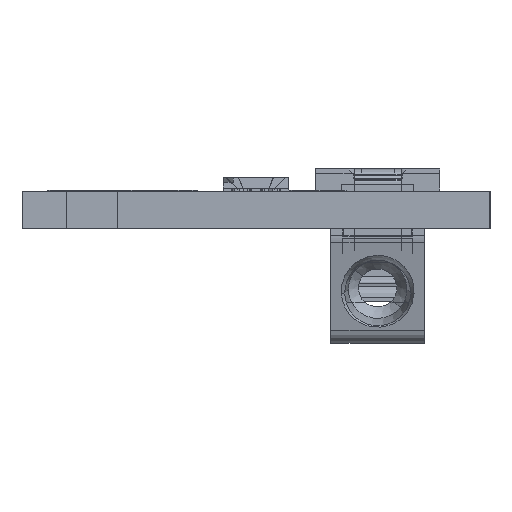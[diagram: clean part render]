
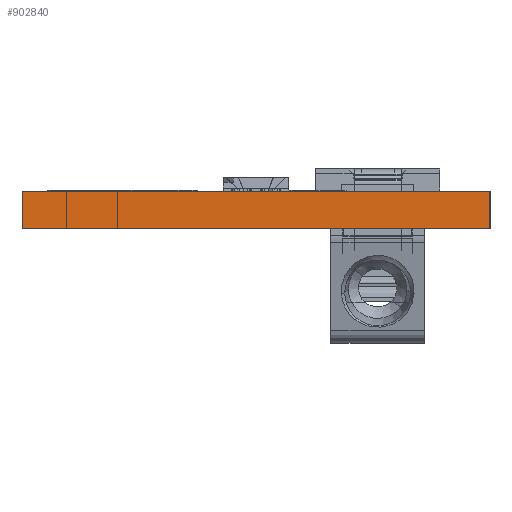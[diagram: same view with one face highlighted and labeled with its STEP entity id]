
A CAD part, left-side view. The second image highlights one B-rep face of the part: STEP entity #902840.
In plain terms, the highlighted planar face has unit normal (-1, 0, 0).
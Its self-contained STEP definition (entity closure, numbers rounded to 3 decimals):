
#874950=CARTESIAN_POINT('',(6.07,20.803,0.));
#874960=DIRECTION('',(0.,1.,0.));
#874970=VECTOR('',#874960,0.039);
#874980=LINE('',#874950,#874970);
#874990=CARTESIAN_POINT('',(6.07,20.803,0.));
#875000=VERTEX_POINT('',#874990);
#875010=CARTESIAN_POINT('',(6.07,40.803,0.));
#875020=VERTEX_POINT('',#875010);
#875030=EDGE_CURVE('',#875000,#875020,#874980,.T.);
#883740=CARTESIAN_POINT('',(6.07,20.803,-1.6));
#883750=VERTEX_POINT('',#883740);
#887200=CARTESIAN_POINT('',(6.07,40.803,-1.6));
#887210=VERTEX_POINT('',#887200);
#887240=CARTESIAN_POINT('',(6.07,20.803,-1.6));
#887250=DIRECTION('',(0.,1.,0.));
#887260=VECTOR('',#887250,0.039);
#887270=LINE('',#887240,#887260);
#887280=EDGE_CURVE('',#883750,#887210,#887270,.T.);
#892490=CARTESIAN_POINT('',(6.07,20.803,0.));
#892500=DIRECTION('',(0.,0.,-1.));
#892510=VECTOR('',#892500,1.);
#892520=LINE('',#892490,#892510);
#892530=EDGE_CURVE('',#875000,#883750,#892520,.T.);
#902550=CARTESIAN_POINT('',(6.07,40.803,0.));
#902560=DIRECTION('',(0.,0.,-1.));
#902570=VECTOR('',#902560,1.);
#902580=LINE('',#902550,#902570);
#902590=EDGE_CURVE('',#875020,#887210,#902580,.T.);
#902730=CARTESIAN_POINT('',(6.07,20.803,0.));
#902740=DIRECTION('',(1.,0.,0.));
#902750=DIRECTION('',(0.,-1.,0.));
#902760=AXIS2_PLACEMENT_3D('',#902730,#902740,#902750);
#902770=PLANE('',#902760);
#902780=ORIENTED_EDGE('',*,*,#875030,.T.);
#902790=ORIENTED_EDGE('',*,*,#892530,.F.);
#902800=ORIENTED_EDGE('',*,*,#887280,.F.);
#902810=ORIENTED_EDGE('',*,*,#902590,.T.);
#902820=EDGE_LOOP('',(#902810,#902800,#902790,#902780));
#902830=FACE_OUTER_BOUND('',#902820,.T.);
#902840=ADVANCED_FACE('',(#902830),#902770,.F.);
